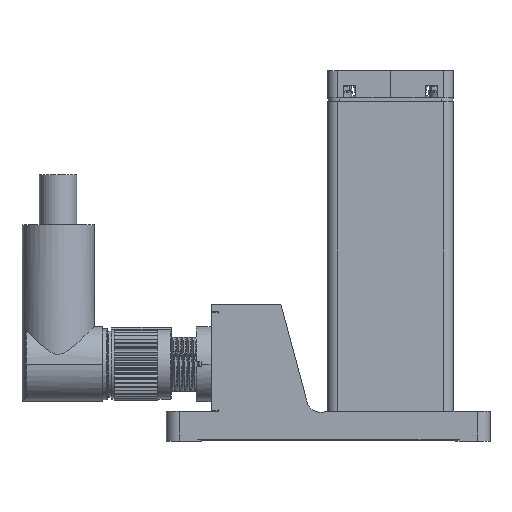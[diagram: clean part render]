
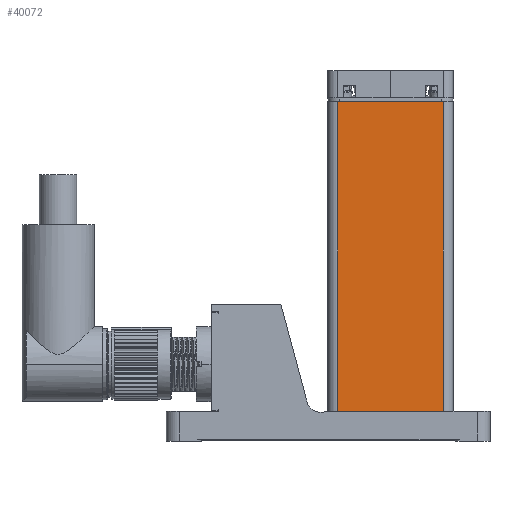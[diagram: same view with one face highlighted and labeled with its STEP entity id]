
A CAD part, top view. The second image highlights one B-rep face of the part: STEP entity #40072.
In plain terms, the highlighted planar face has unit normal (0, 0, 1).
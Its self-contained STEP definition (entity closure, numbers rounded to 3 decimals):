
#7929=DIRECTION('',(1.,0.,0.));
#7930=VECTOR('',#7929,21.15);
#7931=CARTESIAN_POINT('',(-10.575,-9.7,12.575));
#7932=LINE('',#7931,#7930);
#8021=DIRECTION('',(0.,-1.,0.));
#8022=VECTOR('',#8021,62.2);
#8023=CARTESIAN_POINT('',(-10.575,52.5,12.575));
#8024=LINE('',#8023,#8022);
#8025=DIRECTION('',(-1.,0.,0.));
#8026=VECTOR('',#8025,21.15);
#8027=CARTESIAN_POINT('',(10.575,52.5,12.575));
#8028=LINE('',#8027,#8026);
#8029=DIRECTION('',(0.,1.,0.));
#8030=VECTOR('',#8029,62.2);
#8031=CARTESIAN_POINT('',(10.575,-9.7,12.575));
#8032=LINE('',#8031,#8030);
#22695=CARTESIAN_POINT('',(10.575,52.5,12.575));
#22697=VERTEX_POINT('',#22695);
#22704=CARTESIAN_POINT('',(-10.575,52.5,12.575));
#22706=VERTEX_POINT('',#22704);
#22723=CARTESIAN_POINT('',(-10.575,-9.7,12.575));
#22724=CARTESIAN_POINT('',(10.575,-9.7,12.575));
#22725=VERTEX_POINT('',#22723);
#22726=VERTEX_POINT('',#22724);
#40059=CARTESIAN_POINT('',(0.,-15.7,12.575));
#40060=DIRECTION('',(0.,0.,1.));
#40061=DIRECTION('',(1.,0.,0.));
#40062=AXIS2_PLACEMENT_3D('',#40059,#40060,#40061);
#40063=PLANE('',#40062);
#40064=ORIENTED_EDGE('',*,*,#39850,.F.);
#40066=ORIENTED_EDGE('',*,*,#40065,.F.);
#40068=ORIENTED_EDGE('',*,*,#40067,.F.);
#40069=ORIENTED_EDGE('',*,*,#40051,.F.);
#40070=EDGE_LOOP('',(#40064,#40066,#40068,#40069));
#40071=FACE_OUTER_BOUND('',#40070,.F.);
#40072=ADVANCED_FACE('',(#40071),#40063,.T.);
#39850=EDGE_CURVE('',#22725,#22726,#7932,.T.);
#40051=EDGE_CURVE('',#22726,#22697,#8032,.T.);
#40065=EDGE_CURVE('',#22706,#22725,#8024,.T.);
#40067=EDGE_CURVE('',#22697,#22706,#8028,.T.);
